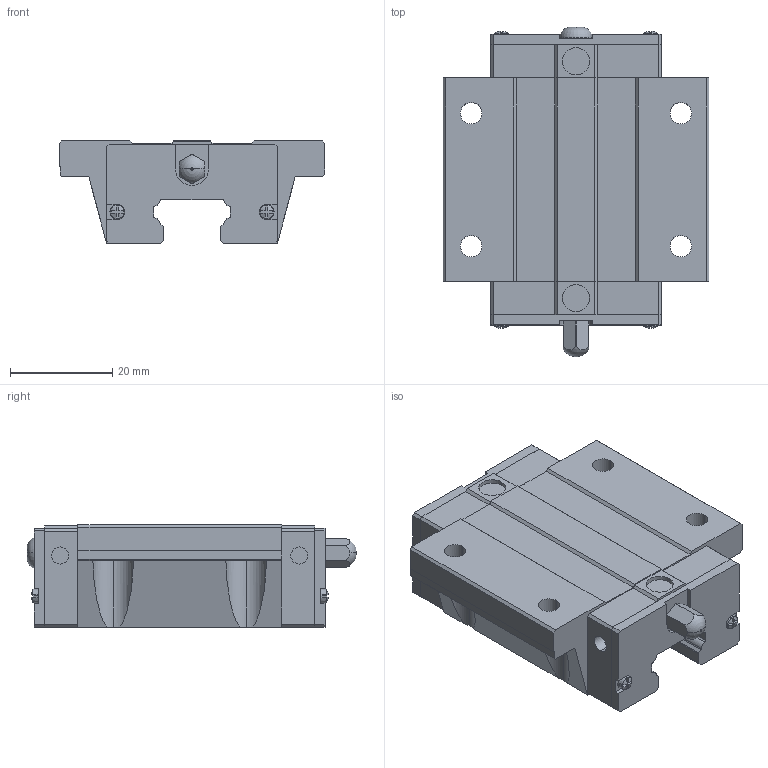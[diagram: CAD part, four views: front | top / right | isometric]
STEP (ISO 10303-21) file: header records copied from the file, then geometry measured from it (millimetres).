
FILE_DESCRIPTION(('no description'),'unknown implementation level');
FILE_NAME('QEW15CC_Z0_H_SS_21.stp',' ',('HIWIN GmbH'),('CADClick - KiM GmbH - www.kimweb.de'),'unknown preprocess','ACIS','unknown authorization');
FILE_SCHEMA(('automotive_design'));
Length unit declared in the file: millimetre
Products named in the file (1): QEW15CC Z0 H SS
Bounding box: 52 x 64.39 x 20 mm (x, y, z)
Volume: 36828.2 mm3; surface area: 10885.3 mm2
Topology: 1 solids, 4 shells, 298 faces, 815 edges, 537 vertices
Faces by surface type: plane 196, cylinder 78, cone 20, sphere 2, torus 2
Entity records: 18598 total; most frequent: CARTESIAN_POINT 1843, STYLED_ITEM 1651, PRESENTATION_STYLE_ASSIGNMENT 1651, COLOUR_RGB 1651, ORIENTED_EDGE 1630, DIRECTION 1546, EDGE_CURVE 815, CURVE_STYLE 815
